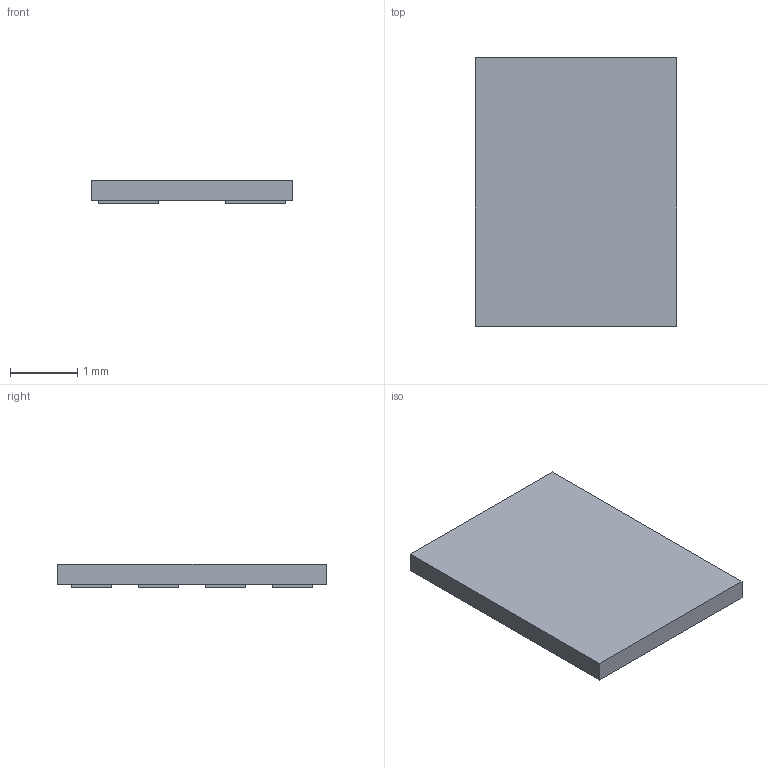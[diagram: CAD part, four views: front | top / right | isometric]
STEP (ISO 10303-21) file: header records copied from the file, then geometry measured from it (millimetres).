
FILE_DESCRIPTION(/* description */ (''),/* implementation_level */ '2;1');
FILE_NAME(/* name */ 'MSM261S4030.stp',/* time_stamp */ '2026-07-13T09:14:39+03:00',/* author */ ('USER'),/* organization */ (''),/* preprocessor_version */ 'ST-DEVELOPER v20',/* originating_system */ 'Autodesk Inventor 2025',/* authorisation */ '');
FILE_SCHEMA (('AUTOMOTIVE_DESIGN { 1 0 10303 214 3 1 1 }'));
Length unit declared in the file: millimetre
Products named in the file (1): MSM261S4030
Bounding box: 3 x 4 x 0.35 mm (x, y, z)
Volume: 3.8 mm3; surface area: 38 mm2
Topology: 9 solids, 9 shells, 54 faces, 108 edges, 72 vertices
Faces by surface type: plane 54
Entity records: 1488 total; most frequent: CARTESIAN_POINT 235, DIRECTION 218, ORIENTED_EDGE 216, LINE 108, VECTOR 108, EDGE_CURVE 108, VERTEX_POINT 72, STYLED_ITEM 63
